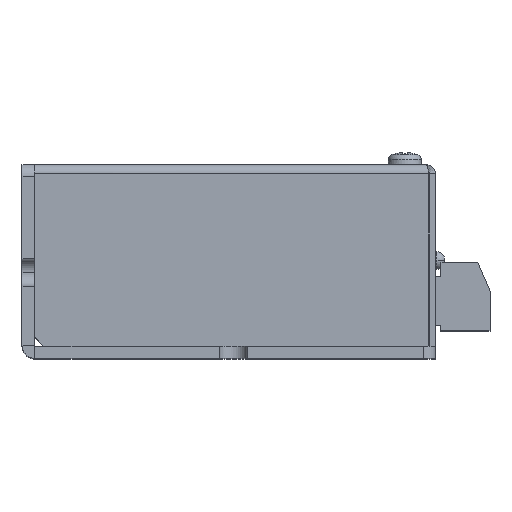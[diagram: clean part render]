
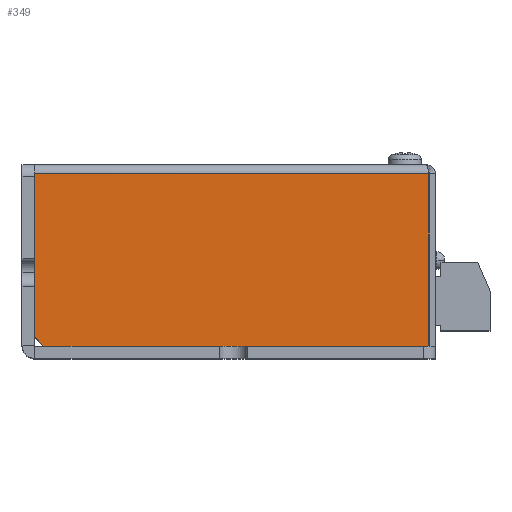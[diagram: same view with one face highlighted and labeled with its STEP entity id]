
A CAD part, top view. The second image highlights one B-rep face of the part: STEP entity #349.
In plain terms, the highlighted planar face has unit normal (0, 0, 1) as drawn and (0, -1, 0) by its records, which use the part's own axes.
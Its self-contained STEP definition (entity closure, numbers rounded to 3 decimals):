
#322 = VERTEX_POINT ( 'NONE', #6609 ) ;
#349 = ADVANCED_FACE ( 'NONE', ( #42544 ), #40464, .F. ) ;
#675 = LINE ( 'NONE', #22591, #35575 ) ;
#1173 = EDGE_CURVE ( 'NONE', #37991, #27747, #26591, .T. ) ;
#2635 = VECTOR ( 'NONE', #20388, 1000. ) ;
#2875 = DIRECTION ( 'NONE',  ( 0., 0., 1. ) ) ;
#2876 = CARTESIAN_POINT ( 'NONE',  ( 1., -36., -65.5 ) ) ;
#3126 = DIRECTION ( 'NONE',  ( 0., 0., 1. ) ) ;
#4202 = CARTESIAN_POINT ( 'NONE',  ( 29.6, -36., -1.1 ) ) ;
#4836 = CARTESIAN_POINT ( 'NONE',  ( 22.6, -36., -65.5 ) ) ;
#5070 = LINE ( 'NONE', #2876, #23043 ) ;
#5152 = CARTESIAN_POINT ( 'NONE',  ( 1.5, -36., -1.1 ) ) ;
#5666 = VERTEX_POINT ( 'NONE', #4836 ) ;
#5713 = ORIENTED_EDGE ( 'NONE', *, *, #24077, .F. ) ;
#6609 = CARTESIAN_POINT ( 'NONE',  ( 22.6, -36., -66.5 ) ) ;
#6772 = CARTESIAN_POINT ( 'NONE',  ( 1., -36., -65.5 ) ) ;
#6900 = LINE ( 'NONE', #19711, #24882 ) ;
#7586 = LINE ( 'NONE', #19967, #23431 ) ;
#7903 = CARTESIAN_POINT ( 'NONE',  ( 1.5, -36., -65.5 ) ) ;
#8171 = CARTESIAN_POINT ( 'NONE',  ( 1.5, -36., -1.1 ) ) ;
#8433 = CARTESIAN_POINT ( 'NONE',  ( 20.6, -36., -65.5 ) ) ;
#10107 = CARTESIAN_POINT ( 'NONE',  ( 28.1, -36., -65.5 ) ) ;
#10189 = DIRECTION ( 'NONE',  ( -1., 0., 0. ) ) ;
#10853 = LINE ( 'NONE', #5152, #27771 ) ;
#11075 = EDGE_CURVE ( 'NONE', #322, #5666, #7586, .T. ) ;
#11622 = CARTESIAN_POINT ( 'NONE',  ( 29.6, -36., -64. ) ) ;
#13397 = EDGE_CURVE ( 'NONE', #19337, #27747, #10853, .T. ) ;
#14380 = VECTOR ( 'NONE', #18486, 1000. ) ;
#14672 = EDGE_CURVE ( 'NONE', #322, #38511, #40301, .T. ) ;
#15911 = ORIENTED_EDGE ( 'NONE', *, *, #14672, .F. ) ;
#16926 = ORIENTED_EDGE ( 'NONE', *, *, #17622, .T. ) ;
#17029 = DIRECTION ( 'NONE',  ( 1., 0., 0. ) ) ;
#17622 = EDGE_CURVE ( 'NONE', #5666, #36917, #5070, .T. ) ;
#17751 = EDGE_CURVE ( 'NONE', #35197, #22787, #34697, .T. ) ;
#18486 = DIRECTION ( 'NONE',  ( -1., 0., 0. ) ) ;
#18491 = LINE ( 'NONE', #40639, #2635 ) ;
#18706 = ORIENTED_EDGE ( 'NONE', *, *, #17751, .T. ) ;
#19079 = AXIS2_PLACEMENT_3D ( 'NONE', #6772, #30448, #10189 ) ;
#19210 = EDGE_LOOP ( 'NONE', ( #16926, #43716, #37444, #35201, #5713, #18706, #19844, #15911, #24793 ) ) ;
#19337 = VERTEX_POINT ( 'NONE', #8171 ) ;
#19711 = CARTESIAN_POINT ( 'NONE',  ( 20.6, -36., -66.5 ) ) ;
#19844 = ORIENTED_EDGE ( 'NONE', *, *, #25117, .F. ) ;
#19967 = CARTESIAN_POINT ( 'NONE',  ( 22.6, -36., -66.5 ) ) ;
#20388 = DIRECTION ( 'NONE',  ( 0.707, 0., 0.707 ) ) ;
#22591 = CARTESIAN_POINT ( 'NONE',  ( 1.5, -36., -1.5 ) ) ;
#22787 = VERTEX_POINT ( 'NONE', #8433 ) ;
#23043 = VECTOR ( 'NONE', #29920, 1000. ) ;
#23170 = DIRECTION ( 'NONE',  ( 0., 0., 1. ) ) ;
#23431 = VECTOR ( 'NONE', #3126, 1000. ) ;
#24077 = EDGE_CURVE ( 'NONE', #35197, #19337, #675, .T. ) ;
#24596 = CARTESIAN_POINT ( 'NONE',  ( 29.6, -36., -65.5 ) ) ;
#24793 = ORIENTED_EDGE ( 'NONE', *, *, #11075, .T. ) ;
#24882 = VECTOR ( 'NONE', #2875, 1000. ) ;
#25117 = EDGE_CURVE ( 'NONE', #38511, #22787, #6900, .T. ) ;
#25417 = DIRECTION ( 'NONE',  ( 1., 0., 0. ) ) ;
#25536 = VECTOR ( 'NONE', #41442, 1000. ) ;
#26591 = LINE ( 'NONE', #24596, #25536 ) ;
#27747 = VERTEX_POINT ( 'NONE', #4202 ) ;
#27771 = VECTOR ( 'NONE', #25417, 1000. ) ;
#29920 = DIRECTION ( 'NONE',  ( 1., 0., 0. ) ) ;
#30448 = DIRECTION ( 'NONE',  ( 0., 1., 0. ) ) ;
#34697 = LINE ( 'NONE', #40685, #37856 ) ;
#35197 = VERTEX_POINT ( 'NONE', #7903 ) ;
#35201 = ORIENTED_EDGE ( 'NONE', *, *, #13397, .F. ) ;
#35575 = VECTOR ( 'NONE', #23170, 1000. ) ;
#36917 = VERTEX_POINT ( 'NONE', #10107 ) ;
#37444 = ORIENTED_EDGE ( 'NONE', *, *, #1173, .T. ) ;
#37856 = VECTOR ( 'NONE', #17029, 1000. ) ;
#37991 = VERTEX_POINT ( 'NONE', #11622 ) ;
#38511 = VERTEX_POINT ( 'NONE', #42468 ) ;
#38710 = CARTESIAN_POINT ( 'NONE',  ( 22.6, -36., -66.5 ) ) ;
#40301 = LINE ( 'NONE', #38710, #14380 ) ;
#40464 = PLANE ( 'NONE',  #19079 ) ;
#40639 = CARTESIAN_POINT ( 'NONE',  ( 29.6, -36., -64. ) ) ;
#40685 = CARTESIAN_POINT ( 'NONE',  ( 1., -36., -65.5 ) ) ;
#41442 = DIRECTION ( 'NONE',  ( 0., 0., 1. ) ) ;
#42363 = EDGE_CURVE ( 'NONE', #36917, #37991, #18491, .T. ) ;
#42468 = CARTESIAN_POINT ( 'NONE',  ( 20.6, -36., -66.5 ) ) ;
#42544 = FACE_OUTER_BOUND ( 'NONE', #19210, .T. ) ;
#43716 = ORIENTED_EDGE ( 'NONE', *, *, #42363, .T. ) ;
